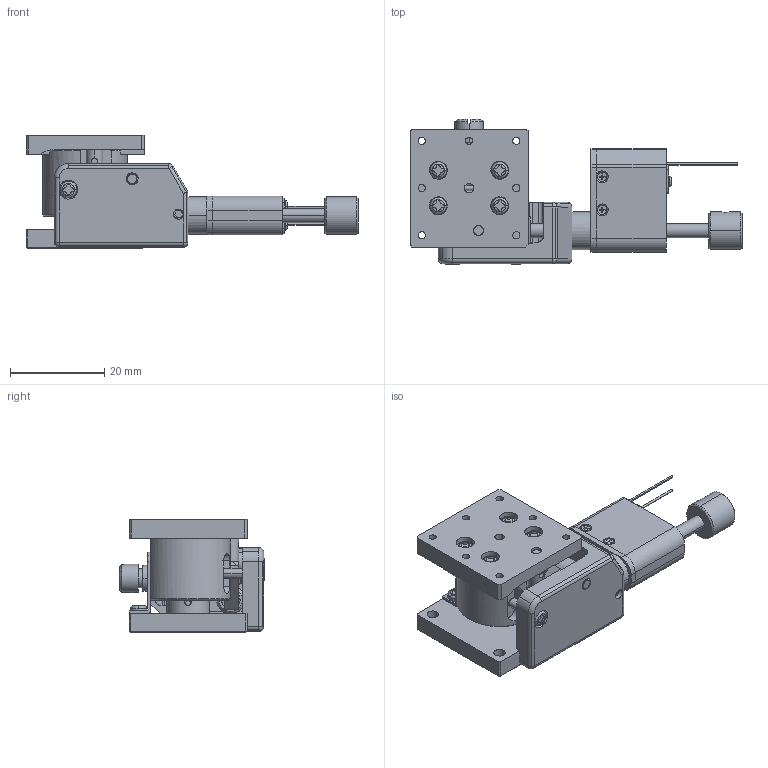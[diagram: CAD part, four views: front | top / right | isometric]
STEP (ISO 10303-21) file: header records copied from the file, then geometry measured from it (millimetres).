
FILE_DESCRIPTION (( 'STEP AP214' ), '1' );
FILE_NAME ('TSDS-253-PDM.STEP', '2024-06-12T11:28:43', ( '' ), ( '' ), 'SwSTEP 2.0', 'SolidWorks 2023', '' );
FILE_SCHEMA (( 'AUTOMOTIVE_DESIGN' ));
Length unit declared in the file: millimetre
Products named in the file (7): TSDS-253-C1A-S07; VPDM-6.5ACT; TSDS-253-C1A-S08; VPDM6A-M02-20001-S01; TSDS-253; VPDM6A-M02-20001-S04; TSDS-253-PDM
Assembly tree (6 placements, depth 3):
  TSDS-253-PDM
    TSDS-253
      TSDS-253-C1A-S07
      TSDS-253-C1A-S08
    VPDM-6.5ACT
      VPDM6A-M02-20001-S04
      VPDM6A-M02-20001-S01
Bounding box: 70.3 x 30.84 x 24 mm (x, y, z)
Volume: 6195.7 mm3; surface area: 12024.7 mm2
Topology: 15 solids, 34 shells, 1102 faces, 2756 edges, 1727 vertices
Faces by surface type: plane 471, cylinder 293, bspline 149, cone 117, sphere 37, torus 35
Entity records: 42892 total; most frequent: CARTESIAN_POINT 20003, ORIENTED_EDGE 5386, DIRECTION 3445, EDGE_CURVE 2711, VERTEX_POINT 1717, B_SPLINE_CURVE_WITH_KNOTS 1386, AXIS2_PLACEMENT_3D 1337, EDGE_LOOP 1246
